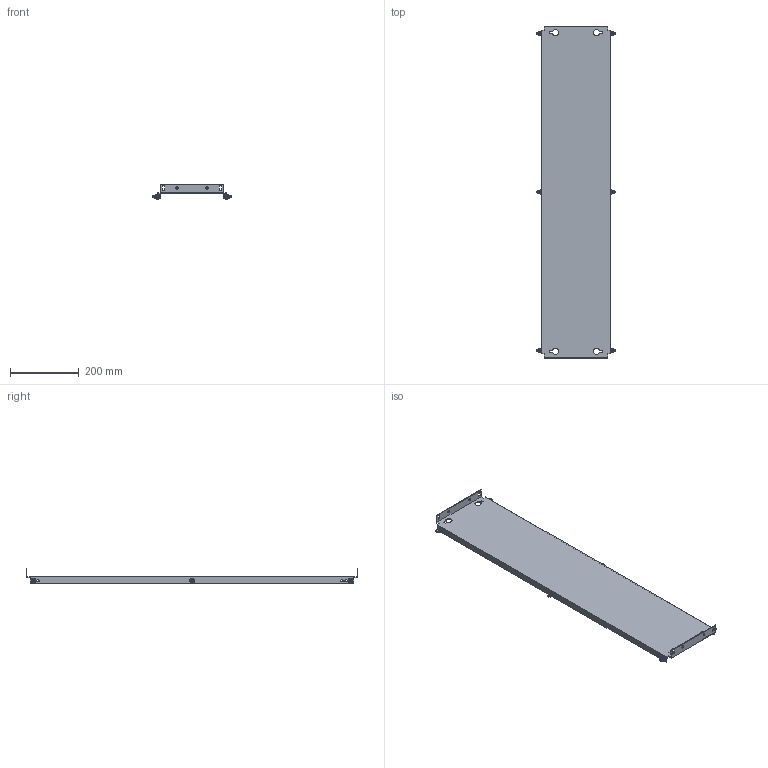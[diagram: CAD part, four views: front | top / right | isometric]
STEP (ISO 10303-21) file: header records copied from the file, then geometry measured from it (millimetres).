
FILE_DESCRIPTION(('Open CASCADE Model'),'2;1');
FILE_NAME('Open CASCADE Shape Model','2025-02-20T13:24:51',('Author'),( 'Open CASCADE'),'Open CASCADE STEP processor 7.8','Open CASCADE 7.8' ,'Unknown');
FILE_SCHEMA(('AUTOMOTIVE_DESIGN { 1 0 10303 214 1 1 1 1 }'));
Length unit declared in the file: millimetre
Products named in the file (4): Compound1; Solid1; Solid2; Solid3
Assembly tree (13 placements, depth 2):
  Compound1
    Solid1
    Solid2  x6
    Solid3  x6
Bounding box: 228 x 969 x 43 mm (x, y, z)
Volume: 473780.6 mm3; surface area: 478973.3 mm2
Topology: 13 solids, 13 shells, 422 faces, 1010 edges, 620 vertices
Faces by surface type: plane 192, cone 102, bspline 72, cylinder 38, torus 18
Full cylindrical faces by diameter (mm): 5 x6, 6 x12, 7 x16
Entity records: 5048 total; most frequent: CARTESIAN_POINT 1397, ORIENTED_EDGE 770, DIRECTION 664, EDGE_CURVE 385, VERTEX_POINT 250, AXIS2_PLACEMENT_3D 224, LINE 216, VECTOR 216
